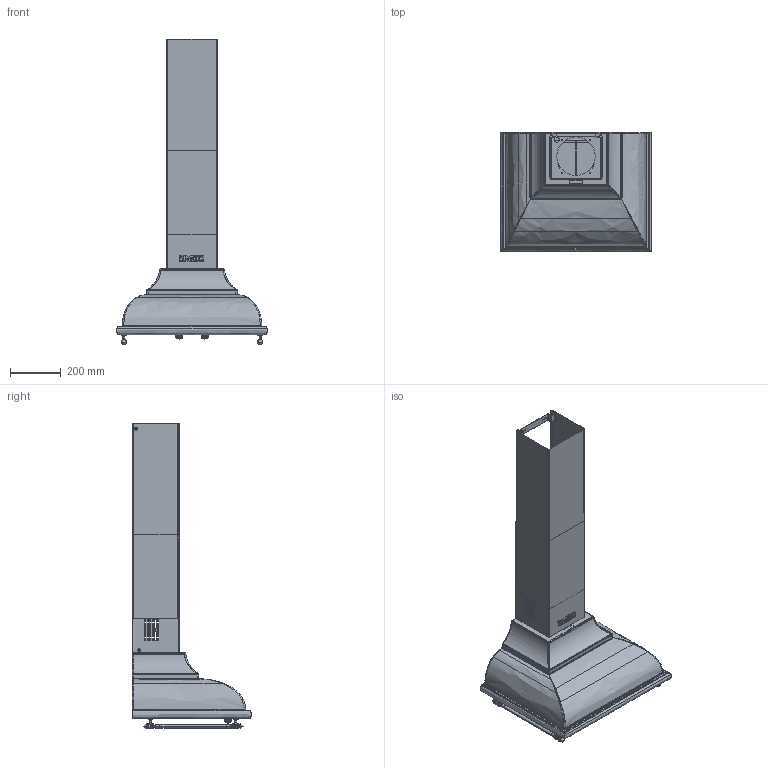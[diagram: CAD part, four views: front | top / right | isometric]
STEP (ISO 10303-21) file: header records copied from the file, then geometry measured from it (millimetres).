
FILE_DESCRIPTION(('CATIA V5 STEP Exchange','CAx-IF Rec.Pracs.--- Model Styling and Organization---1.2---2011-12-15'),'2;1');
FILE_NAME('C:\Users\gianluca.diodoro\Desktop\Cappe 3D\KC16POE.stp','2016-01-04T09:59:51+00:00',('none'),('none'),'CATIA Version 5-6 Release 2014 SP4','CATIA V5 STEP AP214','none');
FILE_SCHEMA(('AUTOMOTIVE_DESIGN { 1 0 10303 214 1 1 1 1 }'));
Products named in the file (1): KC16_AssiemeCompleto
Bounding box: 594.98 x 469.5 x 1202.5 mm (x, y, z)
Volume: 2472285.5 mm3; surface area: 3504818 mm2
Topology: 57 solids, 459 shells, 4456 faces, 12924 edges, 9017 vertices
Faces by surface type: plane 1649, cylinder 1403, bspline 520, torus 506, cone 290, sphere 76, extrusion 12
Entity records: 178013 total; most frequent: CARTESIAN_POINT 69546, ORIENTED_EDGE 23616, DIRECTION 17061, EDGE_CURVE 12860, VERTEX_POINT 9019, AXIS2_PLACEMENT_3D 7453, VECTOR 5689, LINE 5677
